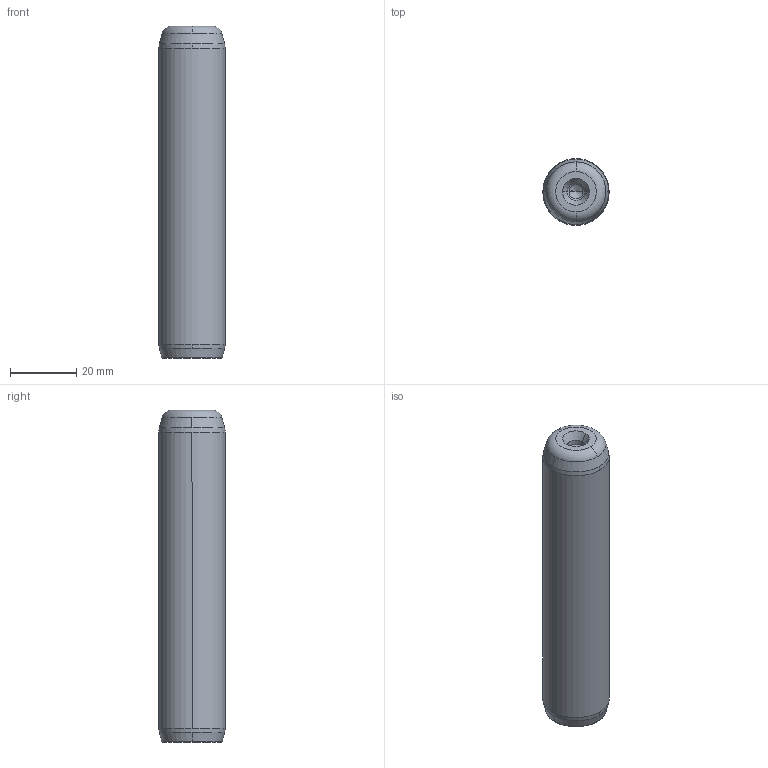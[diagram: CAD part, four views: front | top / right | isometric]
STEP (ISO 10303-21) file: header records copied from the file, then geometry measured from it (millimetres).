
FILE_DESCRIPTION((''),'2;1');
FILE_NAME('P10_020_100.stp','2008-12-23T14:27:36',(''),(''),'Mechanical Desktop 2009','Mechanical Desktop 2009',', , ');
FILE_SCHEMA(('CONFIG_CONTROL_DESIGN'));
Length unit declared in the file: millimetre
Products named in the file (5): Product; ProductAA; blmdl1; ProductA; blmdl1A
Assembly tree (2 placements, depth 3):
  Product
    ProductAA
      blmdl1
  ProductA
  blmdl1A
Bounding box: 20 x 20 x 100 mm (x, y, z)
Volume: 30665.7 mm3; surface area: 6923.7 mm2
Topology: 1 solids, 1 shells, 26 faces, 66 edges, 41 vertices
Faces by surface type: cone 10, cylinder 6, torus 4, bspline 4, plane 2
Entity records: 1172 total; most frequent: CARTESIAN_POINT 310, DIRECTION 162, ORIENTED_EDGE 128, AXIS2_PLACEMENT_3D 73, EDGE_CURVE 64, CIRCLE 48, VERTEX_POINT 41, EDGE_LOOP 27
